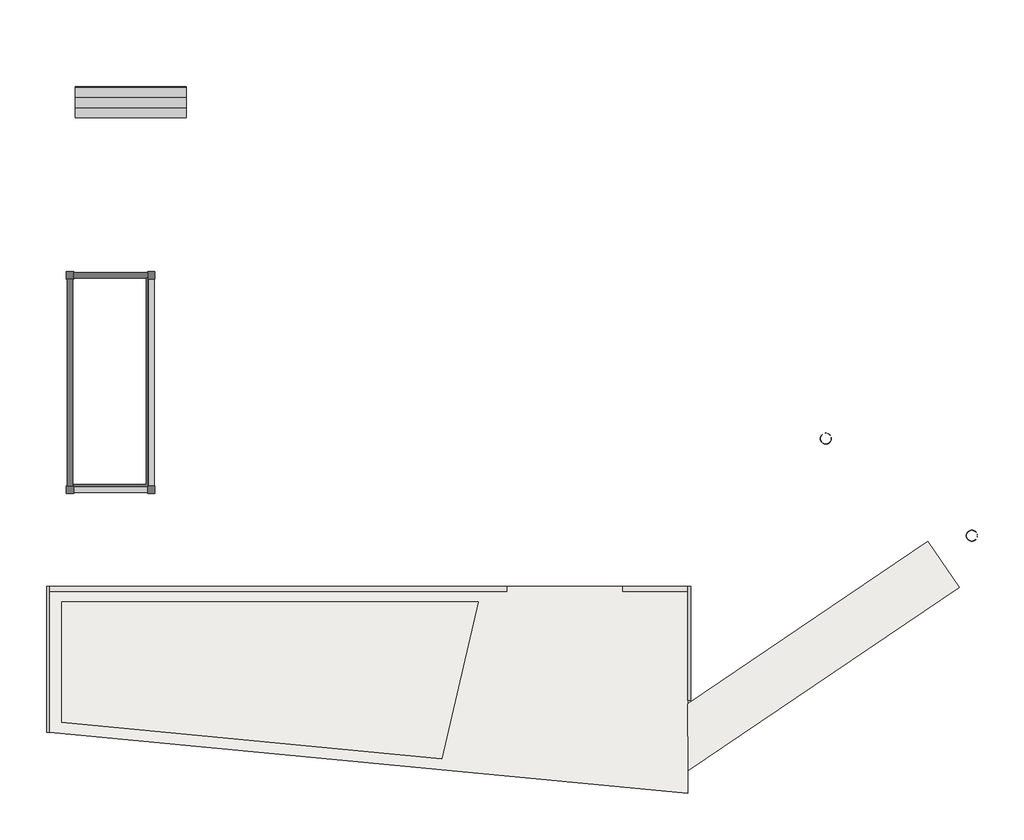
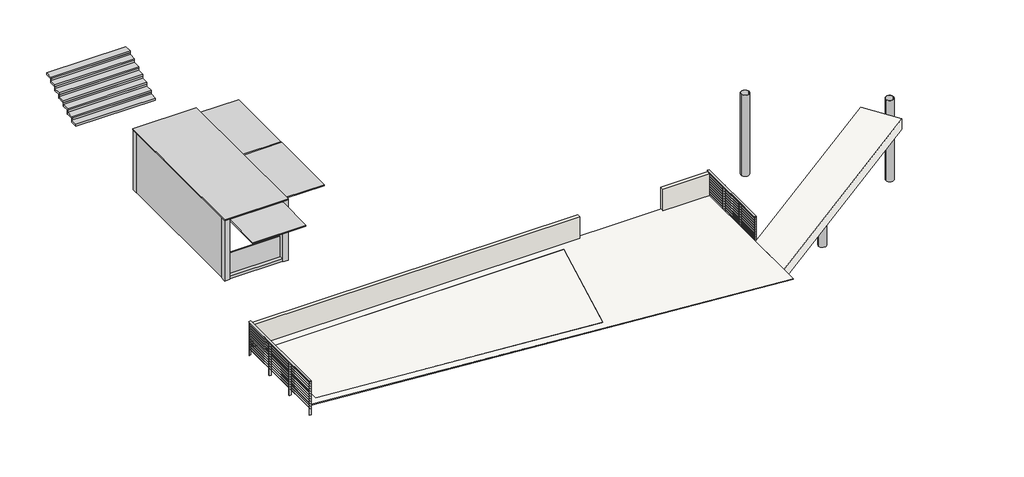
# One storey: 3 columns, 3 slabs, 2 railings, 2 walls, 1 proxy, 1 stair flight.
"""IFC4 building model written with IfcOpenShell, lengths in millimetres."""

from ifc_helpers import new_model, si_unit, frame, origin, place, context, project, spatial, polyline, outline, extrude, faceted_brep, transform, mapped, element, save
from components import generic_models_2_generic_models_1_28bb5d76, hss_round_hollow_structural_section_column_hss12_x0_50_ed3e6df6, hss_round_hollow_structural_section_column_hss12_x0_50_3cafa296, cable_guard_rail_r3_5e0cc9d4, cable_guard_rail_r3_578a048f, stair_flight_1baaeb33

model = new_model("IFC4")

# Units and contexts
model_context = context("Model", 3, world=origin())
ifc_project = project(units=[si_unit("LENGTHUNIT", "METRE", prefix="MILLI")], contexts=[model_context])

# Site, building, storey
site = spatial("IfcSite", under=ifc_project)
building = spatial("IfcBuilding", under=site)
storey = spatial("IfcBuildingStorey", under=building, Name="PIEDMONT SIDEWALK TIE-IN", Elevation=293065.2)

# Proxy
placement = place(None, origin())
generic_models_2_generic_models_1_shape = generic_models_2_generic_models_1_28bb5d76(model_context)
element("IfcBuildingElementProxy", 1, Name="Generic Models 2 : Generic Models 1", ObjectType="Generic Models 2 : Generic Models 1", at=placement, inside=storey, context=model_context, shape_type="MappedRepresentation", body=[
    mapped(generic_models_2_generic_models_1_shape, transform((164185.0088436, 60427.5471913, 290410.8495271), x_axis=(0.0, 1.0, 0.0), y_axis=(-1.0, 0.0, 0.0), z_axis=(0.0, 0.0, 1.0))),
])

# Columns
hss_round_hollow_structural_section_column_hss12_x0_50_shape = hss_round_hollow_structural_section_column_hss12_x0_50_ed3e6df6(model_context)
element("IfcColumn", 2, ObjectType="HSS-Round Hollow Structural Section-Column : HSS12 X0.50", at=placement, inside=storey, context=model_context, shape_type="MappedRepresentation", body=[
    mapped(hss_round_hollow_structural_section_column_hss12_x0_50_shape, transform((47790.9868876, 176741.0413739, 0.0), x_axis=(1.0, 0.0, 0.0), y_axis=(0.0, 1.0, 0.0), z_axis=(0.0, 0.0, 1.0))),
])
element("IfcColumn", 3, ObjectType="HSS-Round Hollow Structural Section-Column : HSS12 X0.50", at=placement, inside=storey, context=model_context, shape_type="MappedRepresentation", body=[
    mapped(hss_round_hollow_structural_section_column_hss12_x0_50_shape, transform((43781.3226832, 179408.8606837, 0.0), x_axis=(1.0, 0.0, 0.0), y_axis=(0.0, 1.0, 0.0), z_axis=(0.0, 0.0, 1.0))),
])
hss_round_hollow_structural_section_column_hss12_x0_50_2_shape = hss_round_hollow_structural_section_column_hss12_x0_50_3cafa296(model_context)
element("IfcColumn", 4, ObjectType="HSS-Round Hollow Structural Section-Column : HSS12 X0.50", at=placement, inside=storey, context=model_context, shape_type="MappedRepresentation", body=[
    mapped(hss_round_hollow_structural_section_column_hss12_x0_50_2_shape, transform((43292.3709062, 173432.5462414, 0.0), x_axis=(1.0, 0.0, 0.0), y_axis=(0.0, 1.0, 0.0), z_axis=(0.0, 0.0, 1.0))),
])

# Railings
cable_guard_rail_r3_shape = cable_guard_rail_r3_5e0cc9d4(model_context)
element("IfcRailing", 5, ObjectType="Cable Guard Rail - R3", at=placement, inside=storey, context=model_context, shape_type="MappedRepresentation", body=[
    mapped(cable_guard_rail_r3_shape, transform((0.0, 0.0, 0.0), x_axis=(1.0, 0.0, 0.0), y_axis=(0.0, 1.0, 0.0), z_axis=(0.0, 0.0, 1.0))),
])
cable_guard_rail_r3_2_shape = cable_guard_rail_r3_578a048f(model_context)
element("IfcRailing", 6, ObjectType="Cable Guard Rail - R3", at=placement, inside=storey, context=model_context, shape_type="MappedRepresentation", body=[
    mapped(cable_guard_rail_r3_2_shape, transform((0.0, 0.0, 0.0), x_axis=(1.0, 0.0, 0.0), y_axis=(0.0, 1.0, 0.0), z_axis=(0.0, 0.0, 1.0))),
])

# Slabs
element("IfcSlab", 7, ObjectType="Grass Turf", at=placement, inside=storey, context=model_context, shape_type="SweptSolid", body=[
    extrude(outline(polyline([(22804.6504964, 171620.7644149), (22804.6504964, 174929.0186306), (34237.9606386, 174929.0186306), (33242.3700503, 170616.6420164), (22804.6504964, 171620.7644149)])), frame((0.0, 0.0, 292912.8), z_axis=(0.0, 0.0, 1.0), x_axis=(1.0, 0.0, 0.0)), (0.0, 0.0, 1.0), 152.4),
])
element("IfcSlab", 8, ObjectType="FF - 3/4\" Hardwood - Ramps", at=placement, inside=storey, context=model_context, shape_type="Brep", body=[
    faceted_brep([(39995.4390585, 172125.3433524, 292666.1976393), (46584.4144636, 176578.3247175, 293083.6642043), (47437.7649021, 175315.641452, 293083.6642043), (39995.4390585, 170285.9462024, 292612.1307693), (39995.4390585, 172125.3433524, 293092.233435), (39995.4390585, 170285.9462024, 293038.166565), (47437.7649021, 175315.641452, 293509.7), (46584.4144636, 176578.3247175, 293509.7)], [[[0, 1, 2, 3]], [[4, 5, 6, 7]], [[1, 0, 4, 7]], [[2, 1, 7, 6]], [[3, 2, 6, 5]], [[0, 3, 5, 4]]]),
])
element("IfcSlab", 9, ObjectType="FF - 5/4\" Hardwood", at=placement, inside=storey, context=model_context, shape_type="SweptSolid", body=[
    extrude(outline(polyline([(39995.4390585, 169662.187864), (22479.7044304, 171347.2246554), (22479.7044304, 175351.2936306), (39995.4390585, 175351.2936306), (39995.4390585, 169662.187864)]), holes=[polyline([(34237.9606386, 174929.0186306), (22804.6504964, 174929.0186306), (22804.6504964, 171620.7644149), (33242.3700503, 170616.6420164), (34237.9606386, 174929.0186306)])]), frame((0.0, 0.0, 293033.45), z_axis=(0.0, 0.0, 1.0), x_axis=(1.0, 0.0, 0.0)), (0.0, 0.0, 1.0), 31.75),
])

# Stair flight
stair_flight_shape = stair_flight_1baaeb33(model_context)
element("IfcStairFlight", 10, ObjectType="3\" Tread 1/2\" Riser", at=placement, inside=storey, context=model_context, shape_type="MappedRepresentation", body=[
    mapped(stair_flight_shape, transform((0.0, 0.0, 0.0), x_axis=(1.0, 0.0, 0.0), y_axis=(0.0, 1.0, 0.0), z_axis=(0.0, 0.0, 1.0))),
])

# Walls
element("IfcWall", 11, ObjectType="(WC-1) Wood Wall Cladding", at=placement, inside=storey, context=model_context, shape_type="Brep", body=[
    faceted_brep([(22479.7044304, 175217.9436306, 293065.2), (35016.7412551, 175217.9436306, 293065.2), (35016.7412551, 175217.9436306, 293954.2), (22479.7044304, 175217.9436306, 293954.2), (22479.7044304, 175351.2936306, 293065.2), (22479.7044304, 175351.2936306, 293916.1), (22479.7044304, 175351.2936306, 293954.2), (35016.7412551, 175351.2936306, 293954.2), (35016.7412551, 175351.2936306, 293065.2)], [[[0, 1, 2, 3]], [[4, 5, 6, 7, 8]], [[1, 0, 4, 8]], [[2, 1, 8, 7]], [[3, 2, 7, 6]], [[0, 3, 6, 5, 4]]]),
])
element("IfcWall", 12, ObjectType="(WC-1) Wood Wall Cladding", at=placement, inside=storey, context=model_context, shape_type="SweptSolid", body=[
    extrude(outline(polyline([(39995.4390585, 175217.9436306), (38211.0890585, 175217.9436306), (38211.0890585, 175351.2936306), (39995.4390585, 175351.2936306), (39995.4390585, 175217.9436306)])), frame((0.0, 0.0, 293065.2), z_axis=(0.0, 0.0, 1.0), x_axis=(1.0, 0.0, 0.0)), (0.0, 0.0, 1.0), 889.0),
])

save(model, "model.ifc")
